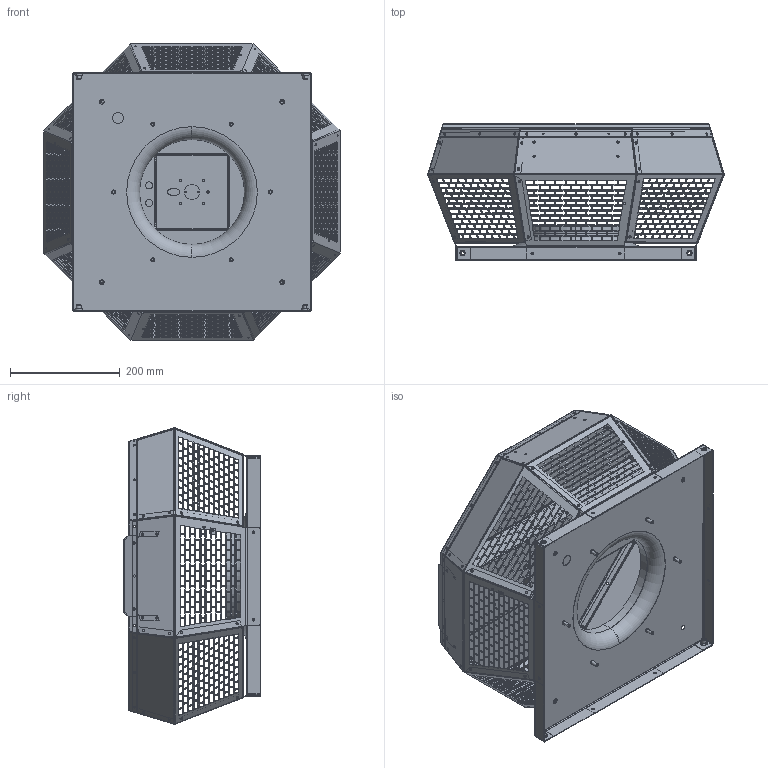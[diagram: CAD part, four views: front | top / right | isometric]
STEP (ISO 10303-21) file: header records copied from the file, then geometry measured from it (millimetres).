
FILE_DESCRIPTION (( 'STEP AP203' ), '1' );
FILE_NAME ('131264-00_DHA280ECP.STEP', '2015-02-20T07:38:31', ( '' ), ( '' ), 'SwSTEP 2.0', 'SolidWorks 2012', '' );
FILE_SCHEMA (( 'CONFIG_CONTROL_DESIGN' ));
Products named in the file (1): 131264-00_DHA280ECP
Bounding box: 540.89 x 248.67 x 540.89 mm (x, y, z)
Surface area: 1729828 mm2 (no closed solid volume)
Topology: 0 solids, 35 shells, 3615 faces, 13462 edges, 9315 vertices
Faces by surface type: plane 2979, cylinder 528, bspline 52, torus 36, cone 20
Entity records: 144585 total; most frequent: CARTESIAN_POINT 28478, ORIENTED_EDGE 22725, DIRECTION 21521, EDGE_CURVE 13462, LINE 11829, VECTOR 11829, VERTEX_POINT 9315, EDGE_LOOP 5801
